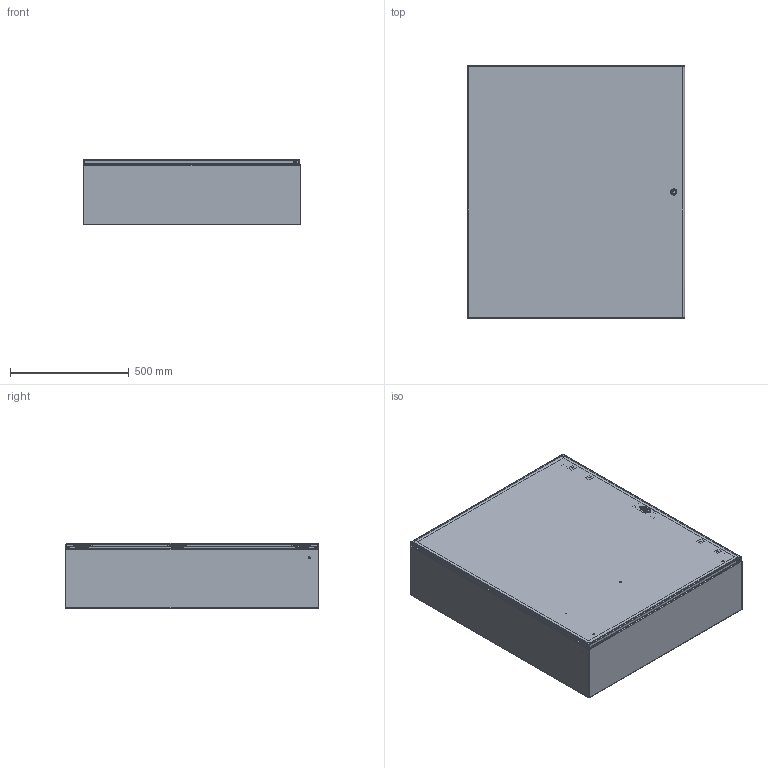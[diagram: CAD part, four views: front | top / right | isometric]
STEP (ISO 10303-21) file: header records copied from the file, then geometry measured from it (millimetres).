
FILE_DESCRIPTION (( 'STEP AP203' ), '1' );
FILE_NAME ('csd423610lg.STEP', '2012-06-12T13:41:30', ( 'User' ), ( 'Pentair Inc' ), 'SwSTEP 2.0', 'SolidWorks 2010', '' );
FILE_SCHEMA (( 'CONFIG_CONTROL_DESIGN' ));
Length unit declared in the file: inch
Products named in the file (37): 87929507; 87929767; 87929769_Installed on Pin; 87932903; 64138001; 87555298; 87562939_87562939; 87938012; 87543027; 89076399; 89076193; 89056623; 64205001; 87541995; 87541994_Installed Height; 87927840_87927840; 64206004; 64207001; 64103001; 99411834; csd423610lg; 87951665; 87755958_default; 87951663_default; 23271001_After Weld; 87937949_assy; 87937989_weldment; 87936148; 99401225; 51123001_Post weld; 87931362_87931362; 87408407_Unlocked; 64102001_Latch Open; 87540678; 64210001; 64202001; 64208001
Assembly tree (71 placements, depth 5):
  csd423610lg
    87937949_assy
      87562939_87562939
      87408407_Unlocked
        64103001  x4
        99411834  x2
        64102001_Latch Open
          64205001  x2
          87927840_87927840
          87540678
          64202001
          64210001
          64208001
          87541995
          87541994_Installed Height
        64207001  x2
        64206004  x2
      87938012
      87932903  x6
      87555298
      64138001  x2
      87937989_weldment
        87931362_87931362  x8
        87936148
        99401225
        51123001_Post weld
    87951665
      87755958_default
      23271001_After Weld  x8
      99401225
      87951663_default  x2
    87929507  x3
      87929767
      87929769_Installed on Pin
    89076399  x3
      89076193
      89056623
    87543027  x3
Bounding box: 914.4 x 1067.1 x 274.7 mm (x, y, z)
Volume: 6075349.6 mm3; surface area: 6511347.6 mm2
Topology: 69 solids, 69 shells, 4246 faces, 10841 edges, 6684 vertices
Faces by surface type: plane 1718, cylinder 1187, bspline 914, torus 201, cone 189, sphere 37
Entity records: 85883 total; most frequent: CARTESIAN_POINT 32119, ORIENTED_EDGE 10818, DIRECTION 9221, EDGE_CURVE 5409, VERTEX_POINT 3405, AXIS2_PLACEMENT_3D 3157, LINE 2907, VECTOR 2907
